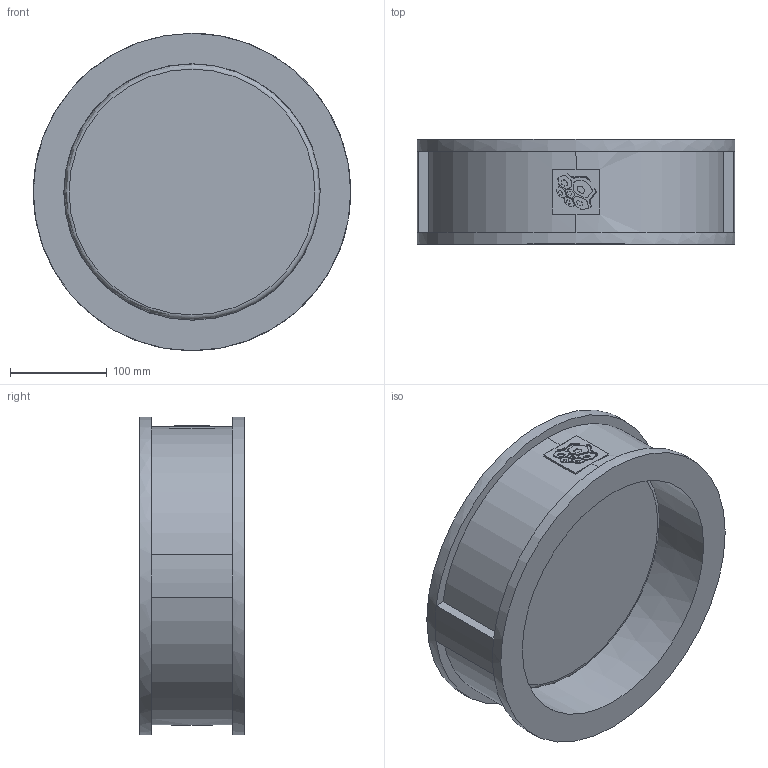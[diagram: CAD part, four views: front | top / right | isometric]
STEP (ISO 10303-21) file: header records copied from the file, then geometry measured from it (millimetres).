
FILE_DESCRIPTION(('STEP AP203'), '1');
FILE_NAME('3D_400-250-16', '', ('UNSPECIFIED'), ('UNSPECIFIED'), 'C3D Converter', 'C3D Toolkit', '');
FILE_SCHEMA(('CONFIG_CONTROL_DESIGN'));
Length unit declared in the file: millimetre
Bounding box: 328 x 108 x 328 mm (x, y, z)
Volume: 3409311.2 mm3; surface area: 439304.4 mm2
Topology: 1 solids, 2 shells, 886 faces, 2583 edges, 1716 vertices
Faces by surface type: plane 854, bspline 22, cylinder 9, torus 1
Full cylindrical faces by diameter (mm): 28.9 x1, 38.9 x1, 40 x1, 244 x1, 252 x1, 262 x1, 264 x1
Entity records: 40787 total; most frequent: CARTESIAN_POINT 10496, ORIENTED_EDGE 5138, DIRECTION 4237, EDGE_CURVE 2569, LINE 2467, VECTOR 2467, VERTEX_POINT 1716, EDGE_LOOP 919
